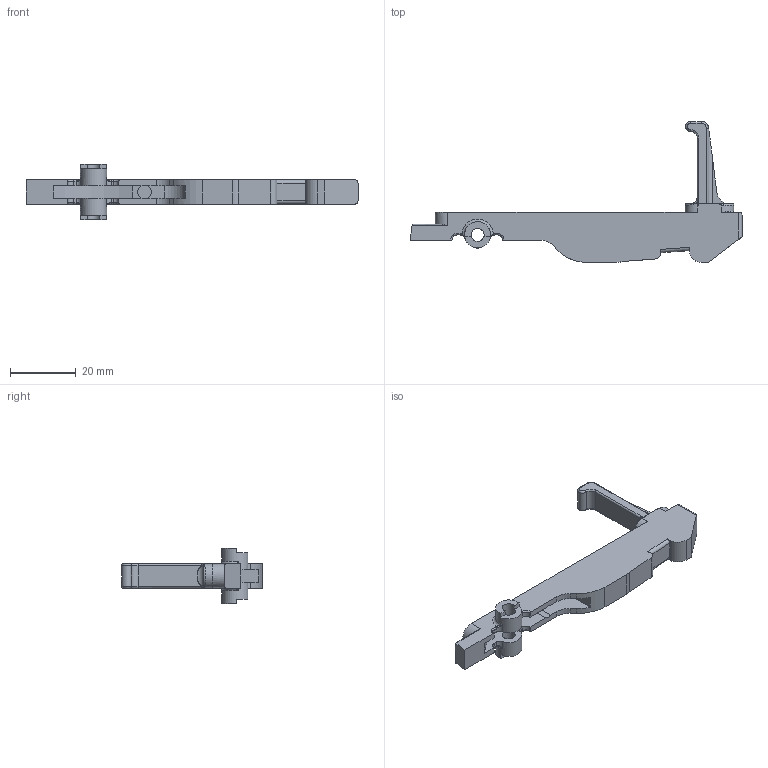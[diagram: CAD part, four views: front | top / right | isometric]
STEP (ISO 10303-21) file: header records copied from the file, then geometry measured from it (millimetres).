
FILE_DESCRIPTION(/* description */ (''),/* implementation_level */ '2;1');
FILE_NAME(/* name */ 'G:/Developer/Repos/Superstar-15/STEPs/Triggers/LongTrigger.step',/* time_stamp */ '2020-10-31T22:00:02-04:00',/* author */ (''),/* organization */ (''),/* preprocessor_version */ 'ST-DEVELOPER v18.1',/* originating_system */ 'Autodesk Translation Framework v9.3.0.1241',/* authorisation */ '');
FILE_SCHEMA (('AUTOMOTIVE_DESIGN { 1 0 10303 214 3 1 1 }'));
Length unit declared in the file: millimetre
Products named in the file (1): LongTrigger
Bounding box: 101.01 x 42.84 x 16.87 mm (x, y, z)
Volume: 8648.9 mm3; surface area: 5542 mm2
Topology: 2 solids, 2 shells, 166 faces, 468 edges, 298 vertices
Faces by surface type: plane 64, cylinder 58, bspline 22, torus 22
Full cylindrical faces by diameter (mm): 3.962 x2, 4.216 x1, 7.986 x2
Entity records: 18410 total; most frequent: CARTESIAN_POINT 14196, ORIENTED_EDGE 924, DIRECTION 840, EDGE_CURVE 462, AXIS2_PLACEMENT_3D 311, VERTEX_POINT 298, LINE 218, VECTOR 218
